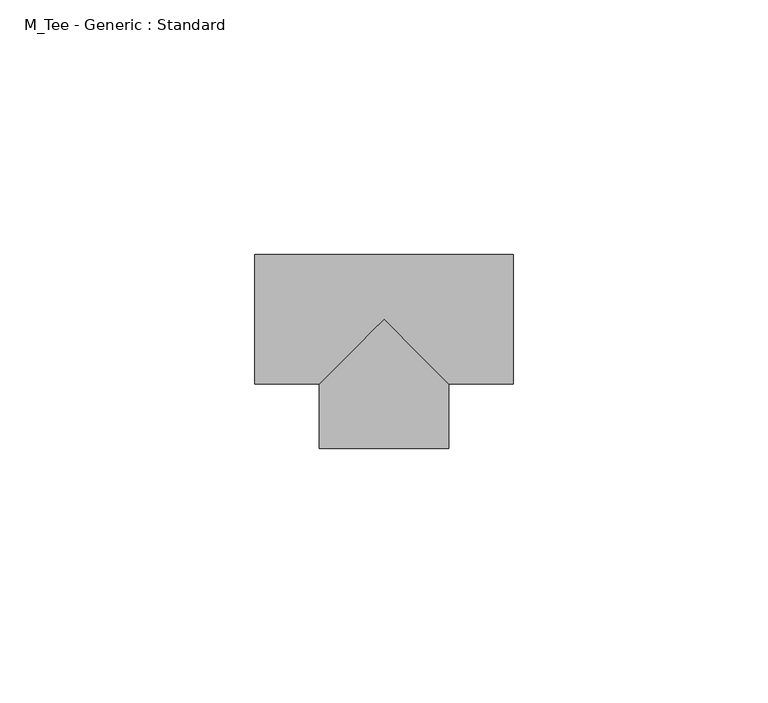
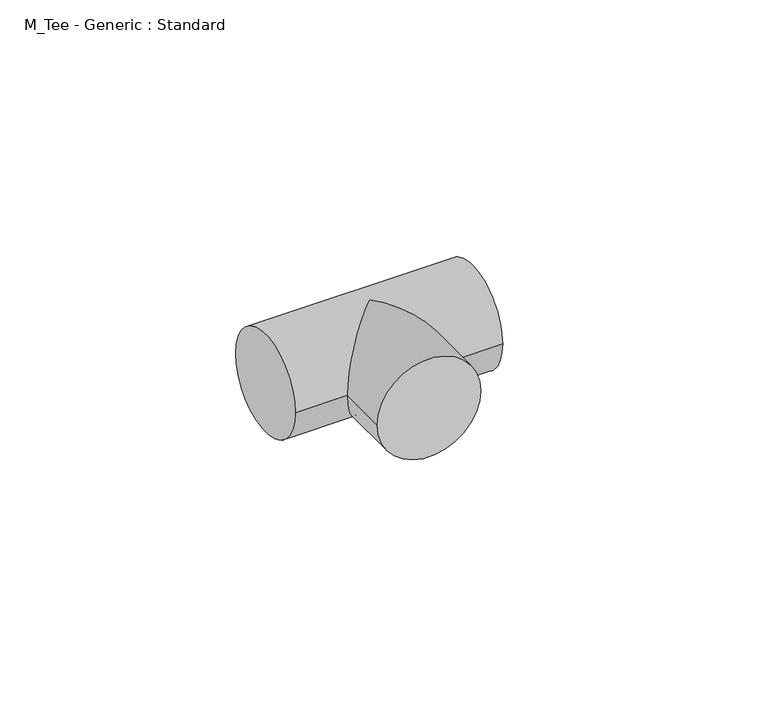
"""IFC4 building model written with IfcOpenShell, lengths in millimetres: pipe fitting geometry, M_Tee - Generic : Standard."""

from ifc_helpers import new_model, si_unit, frame, origin, place, context, project, spatial, circle_curve, ellipse_curve, source, transform, mapped, element, save
from ifc_brep_helpers import plane_surface, cylinder_surface, advanced_brep


def m_tee_generic_standard_bbfc025c(model_context):
    return source(origin(), model_context, "Body", "AdvancedBrep", [
        advanced_brep(
        [(-25.4, -12.7, 0.0), (-25.4, 12.7, 0.0), (25.4, -12.7, 0.0), (25.4, 12.7, 0.0), (-12.7, -12.7, 0.0), (0.0, 0.0, 12.7), (12.7, -12.7, 0.0), (0.0, 0.0, -12.7), (-12.7, -25.4, 0.0), (12.7, -25.4, 0.0)],
        [
            (0, 1, circle_curve(frame((-25.4, 0.0, 0.0), z_axis=(-1.0, 0.0, 0.0), x_axis=(0.0, 1.0, 0.0)), 12.7)),
            (1, 0, circle_curve(frame((-25.4, 0.0, 0.0), z_axis=(-1.0, 0.0, 0.0), x_axis=(0.0, 1.0, 0.0)), 12.7)),
            (2, 3, circle_curve(frame((25.4, 0.0, 0.0), z_axis=(1.0, 0.0, 0.0), x_axis=(0.0, 1.0, 0.0)), 12.7)),
            (3, 2, circle_curve(frame((25.4, 0.0, 0.0), z_axis=(1.0, 0.0, 0.0), x_axis=(0.0, 1.0, 0.0)), 12.7)),
            (0, 4),
            (4, 5, ellipse_curve(frame((0.0, 0.0, 0.0), z_axis=(-0.707106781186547, 0.7071067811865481, 0.0), x_axis=(-0.707106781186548, -0.707106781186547, 0.0)), 17.9605122, 12.7)),
            (5, 6, ellipse_curve(frame((0.0, 0.0, 0.0), z_axis=(0.707106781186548, 0.7071067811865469, 0.0), x_axis=(-0.707106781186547, 0.707106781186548, 0.0)), 17.9605122, 12.7)),
            (6, 2),
            (3, 1),
            (6, 7, ellipse_curve(frame((0.0, 0.0, 0.0), z_axis=(0.707106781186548, 0.7071067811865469, 0.0), x_axis=(-0.707106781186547, 0.707106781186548, 0.0)), 17.9605122, 12.7)),
            (7, 4, ellipse_curve(frame((0.0, 0.0, 0.0), z_axis=(-0.707106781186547, 0.7071067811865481, 0.0), x_axis=(-0.707106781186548, -0.707106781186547, 0.0)), 17.9605122, 12.7)),
            (8, 9, circle_curve(frame((0.0, -25.4, 0.0), z_axis=(0.0, -1.0, 0.0), x_axis=(1.0, 0.0, 0.0)), 12.7)),
            (9, 8, circle_curve(frame((0.0, -25.4, 0.0), z_axis=(0.0, -1.0, 0.0), x_axis=(1.0, 0.0, 0.0)), 12.7)),
            (9, 6),
            (4, 8),
        ],
        [
            plane_surface(frame((-25.4, 0.0, 0.0), z_axis=(-1.0, 0.0, 0.0), x_axis=(0.0, 0.0, 1.0))),
            plane_surface(frame((25.4, 0.0, 0.0), z_axis=(1.0, 0.0, 0.0), x_axis=(0.0, 0.0, 1.0))),
            cylinder_surface(frame((-25.4, 0.0, 0.0), z_axis=(-1.0, 0.0, 0.0), x_axis=(0.0, 1.0, 0.0)), 12.7),
            plane_surface(frame((0.0, -25.4, 0.0), z_axis=(0.0, -1.0, 0.0), x_axis=(0.0, 0.0, 1.0))),
            cylinder_surface(frame((0.0, 0.0, 0.0), z_axis=(0.0, 1.0, 0.0), x_axis=(1.0, 0.0, 0.0)), 12.7),
        ],
        [
            (0, [[1, 2]]),
            (1, [[3, 4]]),
            (2, [[-1, 5, 6, 7, 8, -4, 9]]),
            (2, [[-2, -9, -3, -8, 10, 11, -5]]),
            (3, [[12, 13]]),
            (4, [[-13, 14, -7, -6, 15]]),
            (4, [[-12, -15, -11, -10, -14]]),
        ],
    ),
    ])


if __name__ == "__main__":
    model = new_model("IFC4")
    model_context = context("Model", 3, world=origin())
    ifc_project = project(units=[si_unit("LENGTHUNIT", "METRE", prefix="MILLI")], contexts=[model_context])
    site = spatial("IfcSite", under=ifc_project)
    building = spatial("IfcBuilding", under=site)
    placement = place(None, origin())
    m_tee_generic_standard_shape = m_tee_generic_standard_bbfc025c(model_context)
    element("IfcPipeFitting", 1, ObjectType="M_Tee - Generic : Standard", at=placement, inside=building, context=model_context, shape_type="MappedRepresentation", body=[
        mapped(m_tee_generic_standard_shape, transform((0.0, 0.0, 0.0), x_axis=(1.0, 0.0, 0.0), y_axis=(0.0, 1.0, 0.0), z_axis=(0.0, 0.0, 1.0))),
    ])
    save(model, "model.ifc")
